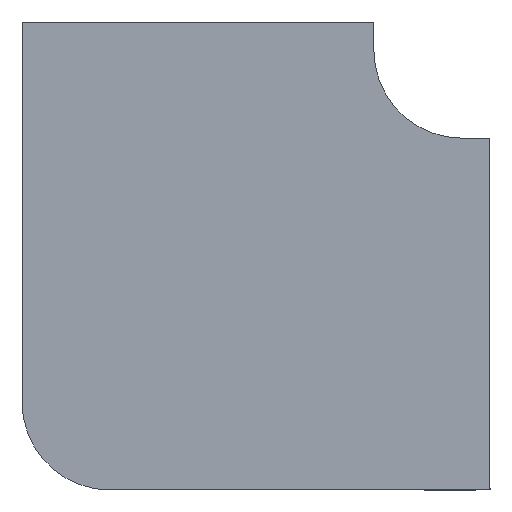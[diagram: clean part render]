
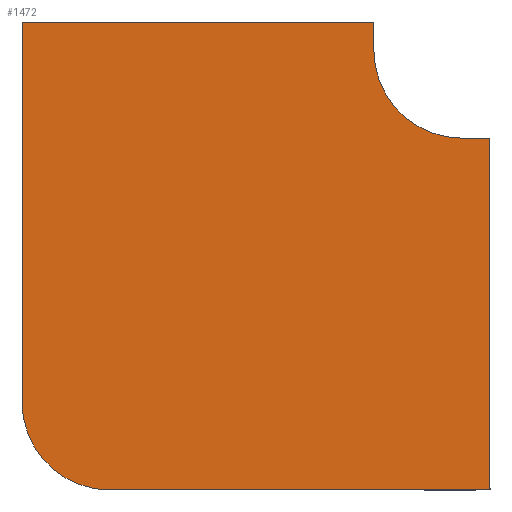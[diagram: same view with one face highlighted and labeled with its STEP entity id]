
A CAD part, front view. The second image highlights one B-rep face of the part: STEP entity #1472.
In plain terms, the highlighted planar face has unit normal (0, -1, 0).
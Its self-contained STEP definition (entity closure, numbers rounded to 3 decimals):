
#24 = VECTOR ( 'NONE', #1539, 1000. ) ;
#63 = LINE ( 'NONE', #1377, #1384 ) ;
#67 = LINE ( 'NONE', #850, #1550 ) ;
#93 = DIRECTION ( 'NONE',  ( 0., 0., -1. ) ) ;
#128 = DIRECTION ( 'NONE',  ( 0., 0., -1. ) ) ;
#147 = CARTESIAN_POINT ( 'NONE',  ( 40., 0., -625. ) ) ;
#156 = ORIENTED_EDGE ( 'NONE', *, *, #1084, .F. ) ;
#169 = VERTEX_POINT ( 'NONE', #830 ) ;
#175 = CARTESIAN_POINT ( 'NONE',  ( 0., 0., 0. ) ) ;
#215 = CIRCLE ( 'NONE', #1302, 125. ) ;
#235 = CARTESIAN_POINT ( 'NONE',  ( 0., 0., -125. ) ) ;
#245 = EDGE_CURVE ( 'NONE', #787, #1659, #63, .T. ) ;
#274 = ORIENTED_EDGE ( 'NONE', *, *, #657, .F. ) ;
#305 = VERTEX_POINT ( 'NONE', #326 ) ;
#326 = CARTESIAN_POINT ( 'NONE',  ( -125., 0., 40. ) ) ;
#364 = DIRECTION ( 'NONE',  ( 0., -1., 0. ) ) ;
#403 = VECTOR ( 'NONE', #934, 1000. ) ;
#418 = VERTEX_POINT ( 'NONE', #786 ) ;
#463 = DIRECTION ( 'NONE',  ( 0., 1., 0. ) ) ;
#489 = FACE_OUTER_BOUND ( 'NONE', #554, .T. ) ;
#510 = CARTESIAN_POINT ( 'NONE',  ( -125., 0., 0. ) ) ;
#528 = EDGE_CURVE ( 'NONE', #768, #708, #698, .T. ) ;
#554 = EDGE_LOOP ( 'NONE', ( #156, #625, #884, #1394, #274, #712, #1462, #1310 ) ) ;
#561 = VECTOR ( 'NONE', #633, 1000. ) ;
#569 = DIRECTION ( 'NONE',  ( 0., 0., 1. ) ) ;
#610 = CARTESIAN_POINT ( 'NONE',  ( -125., 0., 40. ) ) ;
#625 = ORIENTED_EDGE ( 'NONE', *, *, #245, .F. ) ;
#633 = DIRECTION ( 'NONE',  ( 1., 0., 0. ) ) ;
#657 = EDGE_CURVE ( 'NONE', #418, #169, #67, .T. ) ;
#659 = DIRECTION ( 'NONE',  ( -1., 0., 0. ) ) ;
#667 = CARTESIAN_POINT ( 'NONE',  ( 0., 0., -125. ) ) ;
#679 = DIRECTION ( 'NONE',  ( 0., 0., -1. ) ) ;
#698 = CIRCLE ( 'NONE', #1600, 125. ) ;
#708 = VERTEX_POINT ( 'NONE', #235 ) ;
#712 = ORIENTED_EDGE ( 'NONE', *, *, #779, .F. ) ;
#738 = CARTESIAN_POINT ( 'NONE',  ( -500., 0., -625. ) ) ;
#768 = VERTEX_POINT ( 'NONE', #510 ) ;
#770 = LINE ( 'NONE', #610, #24 ) ;
#779 = EDGE_CURVE ( 'NONE', #708, #418, #1055, .T. ) ;
#786 = CARTESIAN_POINT ( 'NONE',  ( 40., 0., -125. ) ) ;
#787 = VERTEX_POINT ( 'NONE', #1458 ) ;
#830 = CARTESIAN_POINT ( 'NONE',  ( 40., 0., -625. ) ) ;
#838 = LINE ( 'NONE', #147, #1627 ) ;
#850 = CARTESIAN_POINT ( 'NONE',  ( 40., 0., -125. ) ) ;
#884 = ORIENTED_EDGE ( 'NONE', *, *, #1321, .F. ) ;
#922 = CARTESIAN_POINT ( 'NONE',  ( -625., 0., 40. ) ) ;
#934 = DIRECTION ( 'NONE',  ( 1., 0., 0. ) ) ;
#942 = DIRECTION ( 'NONE',  ( 0., -1., 0. ) ) ;
#976 = VERTEX_POINT ( 'NONE', #738 ) ;
#1055 = LINE ( 'NONE', #667, #403 ) ;
#1084 = EDGE_CURVE ( 'NONE', #1659, #305, #1665, .T. ) ;
#1101 = CARTESIAN_POINT ( 'NONE',  ( -500., 0., -500. ) ) ;
#1134 = AXIS2_PLACEMENT_3D ( 'NONE', #1532, #364, #128 ) ;
#1302 = AXIS2_PLACEMENT_3D ( 'NONE', #1101, #463, #1500 ) ;
#1310 = ORIENTED_EDGE ( 'NONE', *, *, #1438, .F. ) ;
#1321 = EDGE_CURVE ( 'NONE', #976, #787, #215, .T. ) ;
#1377 = CARTESIAN_POINT ( 'NONE',  ( -625., 0., -500. ) ) ;
#1384 = VECTOR ( 'NONE', #569, 1000. ) ;
#1394 = ORIENTED_EDGE ( 'NONE', *, *, #1615, .F. ) ;
#1438 = EDGE_CURVE ( 'NONE', #305, #768, #770, .T. ) ;
#1458 = CARTESIAN_POINT ( 'NONE',  ( -625., 0., -500. ) ) ;
#1462 = ORIENTED_EDGE ( 'NONE', *, *, #528, .F. ) ;
#1472 = ADVANCED_FACE ( 'NONE', ( #489 ), #1557, .T. ) ;
#1500 = DIRECTION ( 'NONE',  ( 0., 0., 1. ) ) ;
#1527 = CARTESIAN_POINT ( 'NONE',  ( -625., 0., 40. ) ) ;
#1532 = CARTESIAN_POINT ( 'NONE',  ( 0., 0., 0. ) ) ;
#1539 = DIRECTION ( 'NONE',  ( 0., 0., -1. ) ) ;
#1550 = VECTOR ( 'NONE', #93, 1000. ) ;
#1557 = PLANE ( 'NONE',  #1134 ) ;
#1600 = AXIS2_PLACEMENT_3D ( 'NONE', #175, #942, #679 ) ;
#1615 = EDGE_CURVE ( 'NONE', #169, #976, #838, .T. ) ;
#1627 = VECTOR ( 'NONE', #659, 1000. ) ;
#1659 = VERTEX_POINT ( 'NONE', #922 ) ;
#1665 = LINE ( 'NONE', #1527, #561 ) ;
